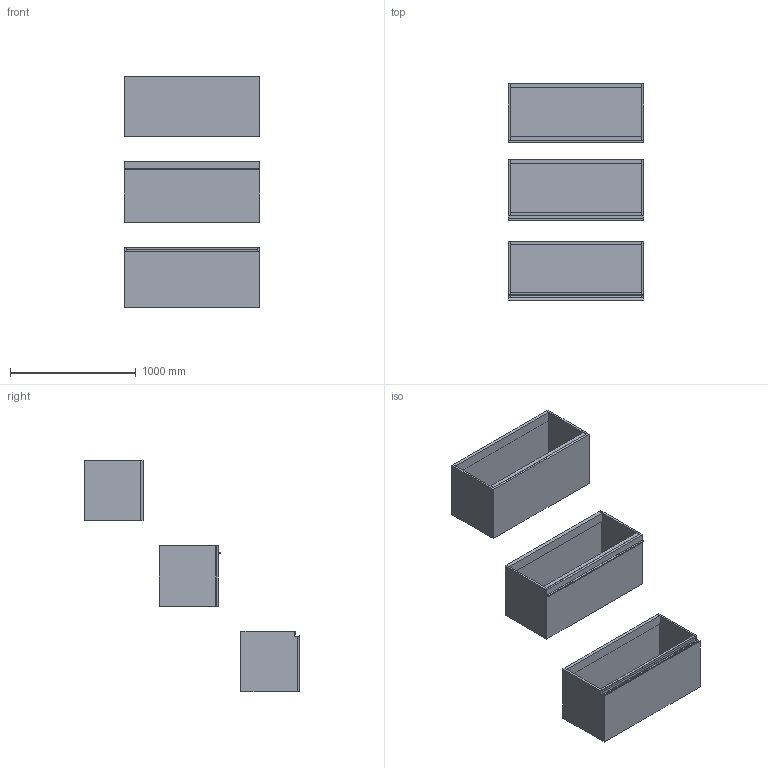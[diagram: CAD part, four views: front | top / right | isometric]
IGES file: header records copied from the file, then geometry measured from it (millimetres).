
Start section: Data from Parasolid IGES Translator 19.0.9, Copyright(c) 2006 Siemens PL M Software. All Rights Reserved.
Global section: file name: noorth-SI-H 48 D 47 W 108_8465.igs; native system: By Siemens PLM Incorporated; preprocessor: XPlus GENERIC/IGES 19.0.9; author: Noname; organization: Noname; date: 20200601.104448; units: metre
Bounding box: 1080 x 1719.1 x 1840.01 mm (x, y, z)
Volume: 85258369.2 mm3; surface area: 12937292.6 mm2
Topology: 23 solids, 23 shells, 196 faces, 418 edges, 258 vertices
Faces by surface type: plane 152, extrusion 16, bspline 16, cylinder 12
